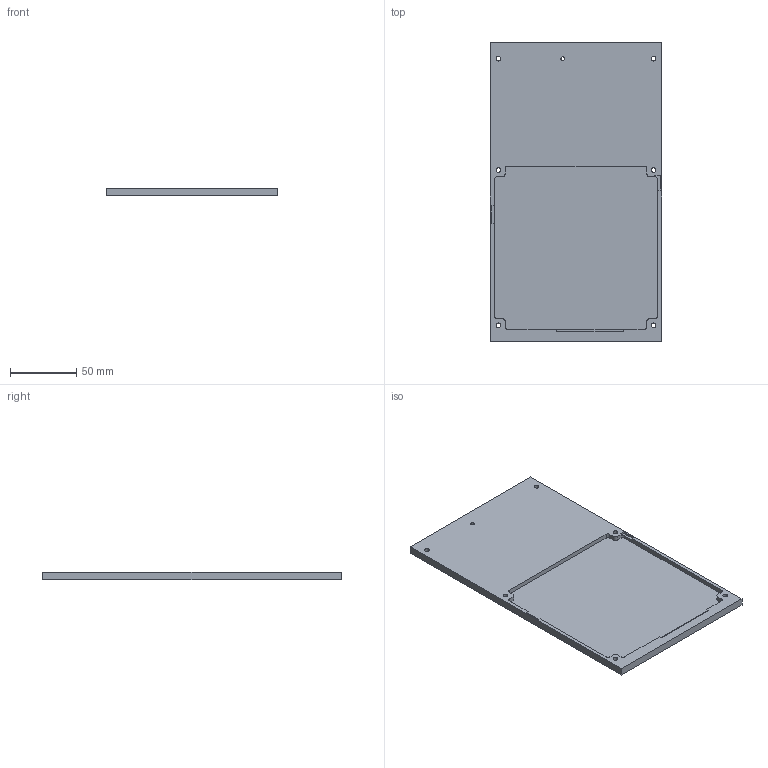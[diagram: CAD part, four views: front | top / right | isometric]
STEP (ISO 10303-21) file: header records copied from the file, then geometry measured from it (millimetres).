
FILE_DESCRIPTION (( 'STEP AP214' ), '1' );
FILE_NAME ('Jetson_node_left.STEP', '2015-02-27T02:18:27', ( '' ), ( '' ), '', '', '' );
FILE_SCHEMA (( '' ));
Length unit declared in the file: millimetre
Products named in the file (1): Jetson_node_left
Bounding box: 129 x 225 x 5.88 mm (x, y, z)
Volume: 117762.8 mm3; surface area: 64189.4 mm2
Topology: 1 solids, 1 shells, 70 faces, 188 edges, 121 vertices
Faces by surface type: plane 32, cylinder 26, cone 12
Entity records: 2243 total; most frequent: DIRECTION 394, CARTESIAN_POINT 380, ORIENTED_EDGE 376, EDGE_CURVE 188, AXIS2_PLACEMENT_3D 135, VECTOR 124, LINE 124, VERTEX_POINT 121
